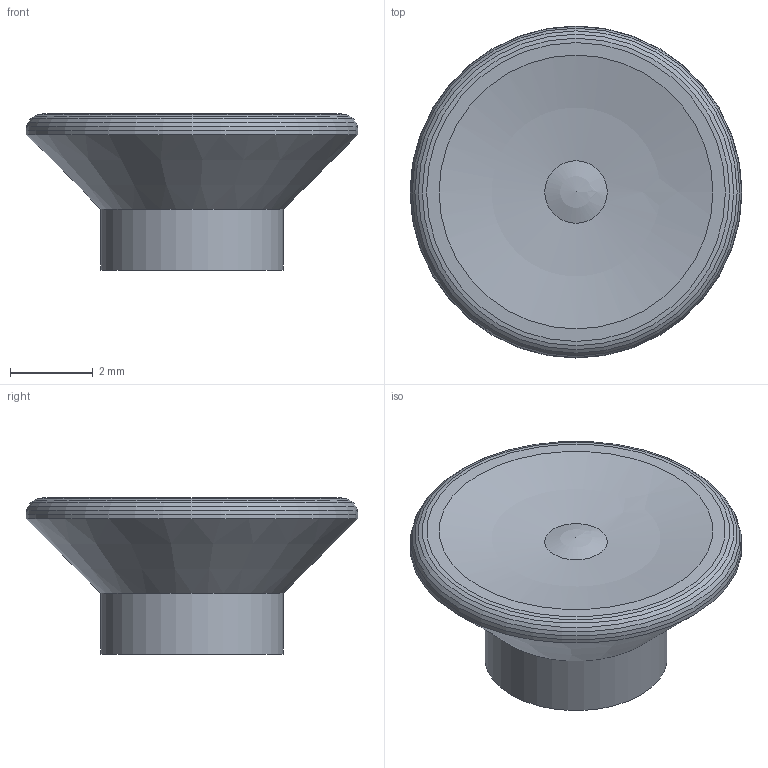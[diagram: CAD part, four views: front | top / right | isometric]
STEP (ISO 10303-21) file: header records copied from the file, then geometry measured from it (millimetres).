
FILE_DESCRIPTION(('Open CASCADE Model'),'2;1');
FILE_NAME('Open CASCADE Shape Model','2026-10-31T23:32:29',('Author'),( 'Open CASCADE'),'Open CASCADE STEP processor 7.7','Open CASCADE 7.7' ,'Unknown');
FILE_SCHEMA(('AUTOMOTIVE_DESIGN { 1 0 10303 214 1 1 1 1 }'));
Length unit declared in the file: millimetre
Products named in the file (1): SOLID
Bounding box: 8 x 8 x 3.76 mm (x, y, z)
Volume: 90.4 mm3; surface area: 157.2 mm2
Topology: 1 solids, 1 shells, 38 faces, 96 edges, 61 vertices
Faces by surface type: plane 23, cone 7, cylinder 6, sphere 2
Full cylindrical faces by diameter (mm): 4.4 x1, 8 x1
Entity records: 2382 total; most frequent: CARTESIAN_POINT 409, DIRECTION 381, LINE 252, VECTOR 252, ORIENTED_EDGE 190, PCURVE 190, DEFINITIONAL_REPRESENTATION 190, EDGE_CURVE 95
